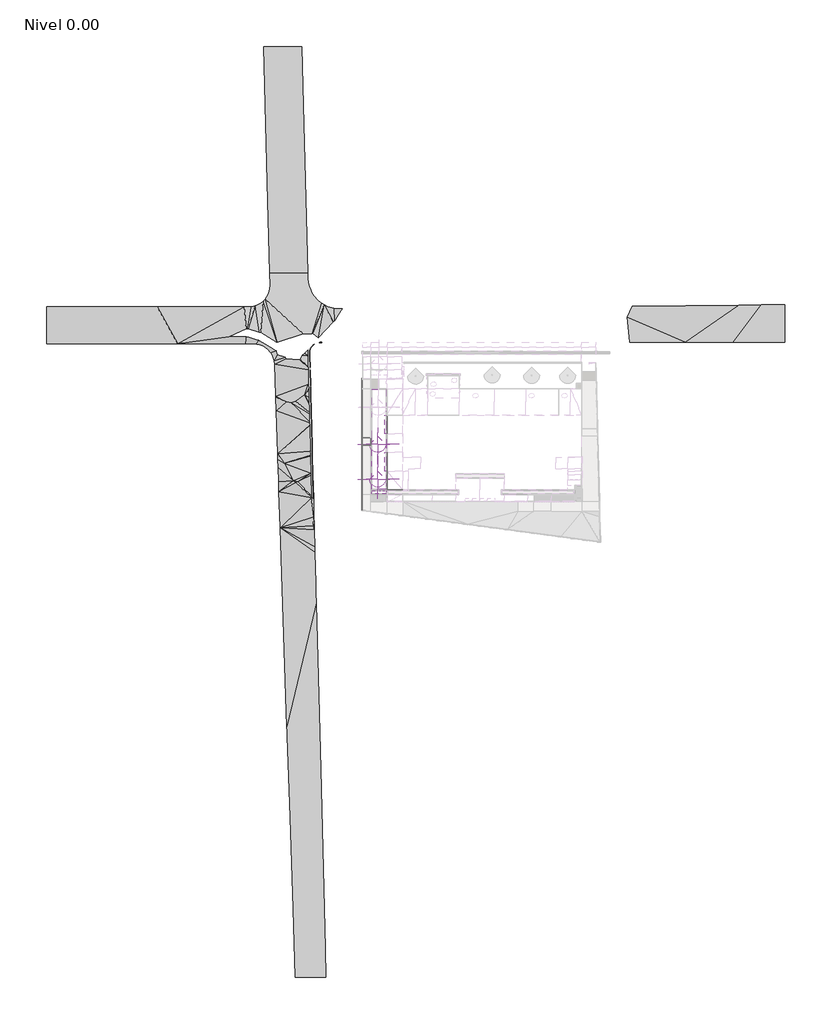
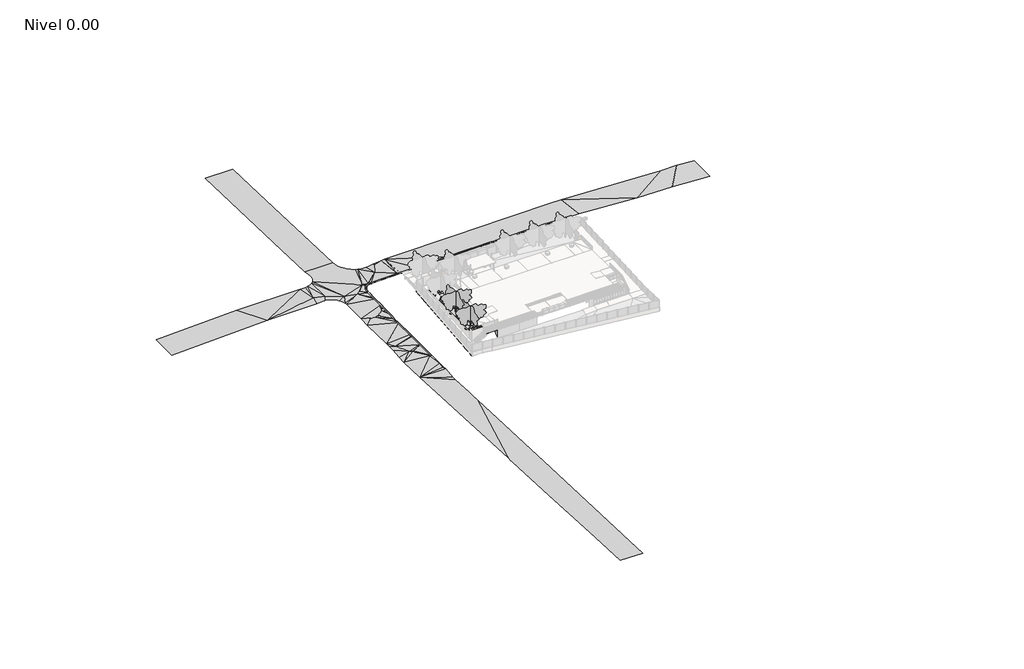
# One storey, part 7 of 10: 11 proxies, 2 geographic elements.
"""IFC4 building model written with IfcOpenShell, lengths in millimetres."""

from ifc_helpers import new_model, si_unit, origin, place, context, project, spatial, triangles, transform, mapped, element, save
from components import generic_models_e7e53a55, m_rpc_tree_deciduous_31fc5fb8

model = new_model("IFC4")

# Units and contexts
model_context = context("Model", 3, world=origin())
ifc_project = project(units=[si_unit("LENGTHUNIT", "METRE", prefix="MILLI")], contexts=[model_context])

# Site, building, storey
site = spatial("IfcSite", under=ifc_project)
building = spatial("IfcBuilding", under=site)
storey = spatial("IfcBuildingStorey", under=building, Name="Nivel 0.00", Elevation=0.0)

# Proxies
placement = place(None, origin())
element("IfcBuildingElementProxy", 1, Name="Building Element Proxy", at=placement, inside=storey, context=model_context, shape_type="Tessellation", body=[
    triangles([(-23758.2800537, -5008.2594177, 119.8403686), (-23758.2800537, -5008.2594177, 119.2509151), (-23537.3563293, -5008.2594177, 119.8403686), (-23537.3563293, -5008.2594177, 119.2509151), (-22610.1733887, -5008.2594177, 119.8403686), (-22610.1733887, -5008.2594177, 119.2509151), (-22137.5720032, -5008.2594177, 119.8403686), (-22137.5720032, -5008.2594177, 119.2509151)], [[1, 4, 2], [1, 3, 4], [3, 6, 4], [3, 5, 6], [5, 8, 6], [5, 7, 8]], closed=False),
    triangles([(-22137.5720032, -3508.259697, 119.8403686), (-22137.5720032, -3508.259697, 119.2509151), (-23197.2305786, -3508.259697, 119.8403686), (-23197.2305786, -3508.259697, 119.2509151), (-23756.2685486, -3508.259697, 119.8403686), (-23756.2685486, -3508.259697, 119.2509151), (-23758.2800537, -3508.259697, 119.8403686), (-23758.2800537, -3508.259697, 119.2509151)], [[1, 4, 2], [1, 3, 4], [3, 6, 4], [3, 5, 6], [5, 8, 6], [5, 7, 8]], closed=False),
    triangles([(-22137.5720032, -3508.259697, 119.8403686), (-22137.5720032, -3508.259697, -86.1539891), (-22137.5720032, -3798.7550468, 119.8403686), (-22137.5720032, -3798.7550468, -104.293089), (-22137.5720032, -4328.0146019, 119.8403686), (-22137.5720032, -4328.0146019, -143.5348616), (-22137.5720032, -4674.7271599, 119.8403686), (-22137.5720032, -4674.7271599, -166.0200989), (-22137.5720032, -5008.2594177, 119.8403686), (-22137.5720032, -5008.2594177, -190.9416518)], [[1, 4, 2], [1, 3, 4], [3, 6, 4], [3, 5, 6], [5, 8, 6], [5, 7, 8], [7, 10, 8], [7, 9, 10]], closed=False),
    triangles([(-22137.5720032, -5008.2594177, 119.8403686), (-22137.5720032, -5008.2594177, -190.9416518), (-22137.5720032, -4674.7271599, 119.8403686), (-22137.5720032, -4674.7271599, -166.0200989), (-22137.5720032, -4328.0146019, 119.8403686), (-22137.5720032, -4328.0146019, -143.5348616), (-22137.5720032, -3798.7550468, 119.8403686), (-22137.5720032, -3798.7550468, -104.293089), (-22137.5720032, -3508.259697, 119.8403686), (-22137.5720032, -3508.259697, -86.1539891)], [[1, 4, 2], [1, 3, 4], [3, 6, 4], [3, 5, 6], [5, 8, 6], [5, 7, 8], [7, 10, 8], [7, 9, 10]], closed=False),
    triangles([(-23758.2800537, -5008.2594177, 119.8403686), (-23758.2800537, -5008.2594177, 119.2509151), (-22137.5720032, -5008.2594177, 119.8403686), (-22137.5720032, -5008.2594177, 119.2509151)], [[1, 4, 2], [1, 3, 4]], closed=False),
    triangles([(-22137.5720032, -3508.259697, 119.8403686), (-22137.5720032, -3508.259697, 119.2509151), (-23758.2800537, -3508.259697, 119.8403686), (-23758.2800537, -3508.259697, 119.2509151)], [[1, 4, 2], [1, 3, 4]], closed=False),
    triangles([(-22137.5720032, -3508.259697, 119.8403686), (-23758.2800537, -3508.259697, 119.8403686), (-23758.2800537, -5008.2594177, 119.8403686), (-22137.5720032, -5008.2594177, 119.8403686)], [[2, 3, 4], [4, 1, 2]], closed=False),
])
element("IfcBuildingElementProxy", 2, Name="Building Element Proxy", at=placement, inside=storey, context=model_context, shape_type="Tessellation", body=[
    triangles([(-19057.5693054, -15653.0759491, 1369.9820755), (-19057.5693054, -15653.0759491, 1349.840427), (-18594.4057159, -15449.3453613, 1366.8441856), (-18594.4057159, -15449.3453613, 1349.840427), (-17423.1132568, -14934.1314606, 1358.9086235), (-17423.1132568, -14934.1314606, 1349.840427), (-17375.9789246, -14913.3978424, 1358.5891663), (-17375.9789246, -14913.3978424, 1349.840427), (-17191.5157654, -14832.258609, 1357.3395332), (-17191.5157654, -14832.258609, 1349.840427), (-16969.6293091, -14734.6587524, 1355.8361366), (-16969.6293091, -14734.6587524, 1349.840427), (-16819.6745087, -14668.6976624, 1354.8202103), (-16819.6745087, -14668.6976624, 1349.840427), (-16564.7668121, -14556.5719482, 1353.0931355), (-16564.7668121, -14556.5719482, 1349.840427), (-16455.9583374, -14508.7109161, 1352.3559711), (-16455.9583374, -14508.7109161, 1349.840427), (-16105.5692596, -14354.5866028, 1349.9821335), (-16105.5692596, -14354.5866028, 1349.840427)], [[1, 4, 2], [1, 3, 4], [3, 6, 4], [3, 5, 6], [5, 8, 6], [5, 7, 8], [7, 10, 8], [7, 9, 10], [9, 12, 10], [9, 11, 12], [11, 14, 12], [11, 13, 14], [13, 16, 14], [13, 15, 16], [15, 18, 16], [15, 17, 18], [17, 20, 18], [17, 19, 20]], closed=False),
    triangles([(-16105.5692596, -15653.0759491, 1369.9820755), (-16105.5692596, -15653.0759491, -850.0000065), (-16105.5692596, -14732.9309509, 1355.8095394), (-16105.5692596, -14732.9309509, -166.0200989), (-16105.5692596, -14715.7831604, 1355.5454567), (-16105.5692596, -14715.7831604, -166.0200989), (-16105.5692596, -14702.0816711, 1355.3344231), (-16105.5692596, -14702.0816711, -166.0200989), (-16105.5692596, -14354.5866028, 1349.9821335), (-16105.5692596, -14354.5866028, -149.0335085)], [[1, 4, 2], [1, 3, 4], [3, 6, 4], [3, 5, 6], [5, 8, 6], [5, 7, 8], [7, 10, 8], [7, 9, 10]], closed=False),
    triangles([(-16105.5692596, -15653.0759491, 1369.9820755), (-16105.5692596, -15653.0759491, -850.0000065), (-16105.5692596, -14732.9309509, 1355.8095394), (-16105.5692596, -14732.9309509, -166.0200989), (-16105.5692596, -14715.7831604, 1355.5454567), (-16105.5692596, -14715.7831604, -166.0200989), (-16105.5692596, -14702.0816711, 1355.3344231), (-16105.5692596, -14702.0816711, -166.0200989), (-16105.5692596, -14354.5866028, 1349.9821335), (-16105.5692596, -14354.5866028, -149.0335085)], [[1, 4, 2], [1, 3, 4], [3, 6, 4], [3, 5, 6], [5, 8, 6], [5, 7, 8], [7, 10, 8], [7, 9, 10]], closed=False),
    triangles([(-19057.5693054, -15653.0759491, 1369.9820755), (-19057.5693054, -15653.0759491, 1349.840427), (-16105.5692596, -14354.5866028, 1349.9821335), (-16105.5692596, -14354.5866028, 1349.840427)], [[1, 4, 2], [1, 3, 4]], closed=False),
    triangles([(-19057.5693054, -15653.0759491, 1369.9820755), (-16105.5692596, -15653.0759491, 1369.9820755), (-16105.5692596, -14354.5866028, 1349.9821335)], [[1, 2, 3]], closed=False),
])
element("IfcBuildingElementProxy", 3, Name="Building Element Proxy", at=placement, inside=storey, context=model_context, shape_type="Tessellation", body=[
    triangles([(-19057.5693054, -2782.1650635, 1319.9921036), (-19057.5693054, -2782.1650635, 88.2344126), (-19057.5693054, -2343.0799461, 1319.9921036), (-19057.5693054, -2343.0799461, 114.9717704), (-19057.5693054, -1042.5896318, 1319.9921036), (-19057.5693054, -1042.5896318, 199.3120893), (-19057.5693054, 773.6954344, 1319.9921036), (-19057.5693054, 773.6954344, 333.9799049), (-19057.5693054, 775.3350145, 1319.9921036), (-19057.5693054, 775.3350145, 334.0525749), (-17783.0831451, 775.3350145, 1332.943784), (-17783.0831451, 775.3350145, 358.605473), (-17484.8478607, 775.3350145, 1335.9745583), (-17484.8478607, 775.3350145, 364.9090127), (-16116.0372253, 775.3350145, 1349.8847557), (-16116.0372253, 775.3350145, 407.3532606), (-16105.4704285, 775.3350145, 1349.9921619), (-16105.4704285, 775.3350145, 407.8702349)], [[1, 4, 2], [1, 3, 4], [3, 6, 4], [3, 5, 6], [5, 8, 6], [5, 7, 8], [7, 10, 8], [7, 9, 10], [9, 12, 10], [9, 11, 12], [11, 14, 12], [11, 13, 14], [13, 16, 14], [13, 15, 16], [15, 18, 16], [15, 17, 18]], closed=False),
    triangles([(-16105.4704285, 775.3350145, 1349.9921619), (-16105.4704285, 775.3350145, 407.8702349), (-16116.0372253, 775.3350145, 1349.8847557), (-16116.0372253, 775.3350145, 407.3532606), (-17484.8478607, 775.3350145, 1335.9745583), (-17484.8478607, 775.3350145, 364.9090127), (-17783.0831451, 775.3350145, 1332.943784), (-17783.0831451, 775.3350145, 358.605473), (-19057.5693054, 775.3350145, 1319.9921036), (-19057.5693054, 775.3350145, 334.0525749)], [[1, 4, 2], [1, 3, 4], [3, 6, 4], [3, 5, 6], [5, 8, 6], [5, 7, 8], [7, 10, 8], [7, 9, 10]], closed=False),
    triangles([(-19057.5693054, 775.3350145, 1319.9921036), (-19057.5693054, 775.3350145, 334.0525749), (-19057.5693054, 773.6954344, 1319.9921036), (-19057.5693054, 773.6954344, 333.9799049), (-19057.5693054, -1042.5896318, 1319.9921036), (-19057.5693054, -1042.5896318, 199.3120893), (-19057.5693054, -2343.0799461, 1319.9921036), (-19057.5693054, -2343.0799461, 114.9717704), (-19057.5693054, -2782.1650635, 1319.9921036), (-19057.5693054, -2782.1650635, 88.2344126)], [[1, 4, 2], [1, 3, 4], [3, 6, 4], [3, 5, 6], [5, 8, 6], [5, 7, 8], [7, 10, 8], [7, 9, 10]], closed=False),
    triangles([(-19057.5693054, 775.3350145, 1319.9921036), (-19057.5693054, -2782.1650635, 1319.9921036), (-16105.4704285, -2782.1650635, 1349.9921619), (-16105.4704285, 775.3350145, 1349.9921619)], [[1, 2, 3], [3, 4, 1]], closed=False),
])
element("IfcBuildingElementProxy", 4, Name="Building Element Proxy", at=placement, inside=storey, context=model_context, shape_type="Tessellation", body=[
    triangles([(-19057.5704681, -9897.184259, 1319.9921036), (-19057.5704681, -9897.184259, -78.4079866), (-19057.5704681, -9898.1876862, 1319.9921036), (-19057.5704681, -9898.1876862, -78.4096398), (-19057.4727997, -9898.1876862, 1319.993121), (-19057.4727997, -9898.1876862, -78.4019641)], [[1, 4, 2], [1, 3, 4], [3, 6, 4], [3, 5, 6]], closed=False),
    triangles([(-19057.5704681, -6339.6647781, 1319.9921036), (-19057.5704681, -6339.6647781, -72.5351165), (-19057.5704681, -9897.1644928, 1319.9921036), (-19057.5704681, -9897.1644928, -78.4079503)], [[1, 4, 2], [1, 3, 4]], closed=False),
    triangles([(-19057.5704681, -9897.184259, 1319.9921036), (-19057.5704681, -9897.184259, -78.4079866), (-19057.5704681, -9898.1876862, 1319.9921036), (-19057.5704681, -9898.1876862, -78.4096398), (-19057.4727997, -9898.1876862, 1319.993121), (-19057.4727997, -9898.1876862, -78.4019641)], [[1, 4, 2], [1, 3, 4], [3, 6, 4], [3, 5, 6]], closed=False),
    triangles([(-19057.5704681, -6339.6647781, 1319.9921036), (-19057.5704681, -6339.6647781, -72.5351165), (-19057.5704681, -9897.1644928, 1319.9921036), (-19057.5704681, -9897.1644928, -78.4079503)], [[1, 4, 2], [1, 3, 4]], closed=False),
    triangles([(-19057.5704681, -6339.6647781, 1319.9921036), (-19057.5704681, -9898.1876862, 1319.9921036), (-16105.4704285, -9898.1876862, 1349.9921619), (-16105.4704285, -6339.6647781, 1349.9921619)], [[1, 2, 4], [3, 4, 2]], closed=False),
])
element("IfcBuildingElementProxy", 5, Name="Building Element Proxy", at=placement, inside=storey, context=model_context, shape_type="Tessellation", body=[
    triangles([(-16105.5692596, -13454.6647888, 1349.9946327), (-16105.5692596, -13454.6647888, -105.0427616), (-18365.8917572, -13454.6647888, 1349.9946327), (-18365.8917572, -13454.6647888, -166.0200989), (-18804.2661621, -13454.6647888, 1349.9946327), (-18804.2661621, -13454.6647888, -166.0200989), (-19057.4727997, -13454.6647888, 1349.9946327), (-19057.4727997, -13454.6647888, -299.8319893), (-19057.4727997, -13159.1793365, 1347.5026337), (-19057.4727997, -13159.1793365, -166.0200989), (-19057.4727997, -13072.9985504, 1346.7759338), (-19057.4727997, -13072.9985504, -166.0200989), (-19057.4727997, -12803.674292, 1344.5045609), (-19057.4727997, -12803.674292, -152.8547869), (-19057.4727997, -10149.1642273, 1322.1185726), (-19057.4727997, -10149.1642273, -78.8162829), (-19057.4727997, -9898.1876862, 1320.0019867), (-19057.4727997, -9898.1876862, -78.4019641)], [[1, 4, 2], [1, 3, 4], [3, 6, 4], [3, 5, 6], [5, 8, 6], [5, 7, 8], [7, 10, 8], [7, 9, 10], [9, 12, 10], [9, 11, 12], [11, 14, 12], [11, 13, 14], [13, 16, 14], [13, 15, 16], [15, 18, 16], [15, 17, 18]], closed=False),
    triangles([(-16105.5692596, -13454.6647888, 1349.9946327), (-19057.4727997, -9897.3028564, 1319.9945744), (-19057.4727997, -13454.6647888, 1349.9946327)], [[2, 3, 1]], closed=False),
])
element("IfcBuildingElementProxy", 6, Name="Building Element Proxy", at=placement, inside=storey, context=model_context, shape_type="Tessellation", body=[
    triangles([(-34113.8014526, 26834.7364563, -51.7933366), (-34138.1232239, 27778.530011, -166.0200989), (-34960.6637146, 59699.4769409, -166.0200989), (-35248.2298828, 70859.3399414, -166.0200989), (-42459.64552, 70875.7668457, -166.0200989), (-41701.0499634, 41436.4335571, -166.0200989), (-41349.1319092, 27779.1834595, -166.0200989), (-41289.7355347, 25474.247406, 112.9454769), (-41316.8827148, 24894.7920776, 183.0771246), (-41427.5550293, 24325.3570679, 251.996973), (-41619.4270386, 23777.9183899, 318.255574), (-41888.4664307, 23263.9892944, 380.4593717), (-42229.0084351, 22794.3760986, 437.3001609), (-42633.8953491, 22378.9595947, 487.5824841), (-43094.6114136, 22026.4741333, 530.2487752), (-43601.4641968, 21744.3332153, 564.4017414), (-44143.7985352, 21538.4713623, 589.3231127), (-44710.2058228, 21413.2185425, 604.4887204), (-44919.6953613, 21398.007843, 606.3320672), (-45288.7751587, 21371.2094788, 625.2355282), (-46216.8161865, 21371.2931946, 663.8019241), (-62776.4565674, 21372.7954285, 663.8019241), (-83805.3125244, 21374.7022888, -165.4420637), (-83821.3394531, 14338.2213226, -165.4420637), (-58867.4812134, 14335.95867, 818.5791773), (-45968.4546021, 14334.788974, 818.5791773), (-44429.0834473, 14334.6494476, 948.0802843), (-43936.3739868, 14296.6703705, 979.3245255), (-43816.7859375, 14287.4511658, 993.6592609), (-43218.9247559, 14147.0818268, 1043.3623318), (-42649.6013672, 13916.8493683, 1068.2034027), (-42122.2289062, 13602.1802032, 1067.596899), (-41649.2438232, 13210.4913208, 1041.5572821), (-41241.7849731, 12751.0158783, 990.6981771), (-41163.5385864, 12629.4139984, 973.1607302), (-40909.4657227, 12234.58461, 1008.8164753), (-40660.1181519, 11673.368866, 1036.4303421), (-40499.6163208, 11080.5980713, 1044.3700464), (-40431.7460449, 10470.2446289, 1032.4484631), (-40222.8797241, 4312.3838699, 813.9701563), (-40213.2849609, 4029.4456169, 815.0398584), (-40131.7643555, 1625.9915943, 596.7662267), (-39852.1302612, -6618.2064972, 332.6720996), (-39815.2069336, -7706.9028351, 255.8071511), (-39761.6195068, -9286.7389618, 179.3756427), (-39671.3785034, -11947.2335449, -166.0200989), (-39607.6568115, -13825.9246857, -390.7022421), (-39376.8615967, -20630.3779541, -591.5472138), (-38090.6703369, -58550.5563721, -391.2592212), (-38064.0463806, -59335.4852051, -387.157146), (-38030.3577393, -60328.7501587, -378.8451897), (-37507.1175842, -75755.1713379, -253.4267913), (-36917.9233154, -93126.1575439, -166.0200989), (-36474.929425, -106186.737085, -166.0200989), (-30677.9018738, -106199.9362793, -166.0200989), (-30822.3349182, -100627.6996582, -166.0200989), (-31705.5972839, -66551.3610352, -339.2454629), (-32524.1147644, -34972.8187866, -596.4363776), (-32577.9649658, -32895.2107178, -613.8365873), (-32620.6228271, -31249.4902405, -622.6196995), (-32774.9831726, -25294.2049072, -654.7236265), (-32801.3955139, -24275.2624512, -624.5535931), (-32884.5625305, -21066.6303955, -236.7763541), (-32902.8125793, -20362.5175598, -227.7039609), (-32906.9472107, -20202.9970642, -327.8844558), (-32908.393634, -20147.2190735, -260.5568975), (-32910.4911804, -20066.2658752, -332.0544774), (-32912.637561, -19983.4941833, -248.0289921), (-32949.7097168, -18553.2559021, -166.0200989), (-33039.171698, -15101.8177368, -117.5831662), (-33040.8157837, -15038.3634705, -111.3249636), (-33160.1526855, -10434.3270538, 150.0000011), (-33251.5192017, -6909.3898865, 305.0721491), (-33256.4119263, -6720.6182693, 312.9953937), (-33257.595575, -6675.0047745, 320.8626097), (-33272.9644043, -6082.0438751, 333.9799049), (-33409.8141907, -802.3112749, 420.0000177), (-33450.9349365, 784.1031567, 444.1728155), (-33456.7229553, 1007.4016634, 468.5094841), (-33488.825647, 2245.9674145, 570.8578517), (-33534.3670532, 4002.9658379, 662.2861736), (-33574.7366821, 5560.4140869, 793.4454643), (-33580.2619263, 5773.5952606, 806.7066462), (-33595.9377136, 6378.3490448, 833.9799088), (-33672.0539978, 9314.9052658, 936.2610203), (-33682.8626404, 9731.8943481, 969.4055815), (-33741.1707092, 11981.4907562, 1069.4269472), (-33755.1489258, 12520.7090057, 1117.1464182), (-33725.7786255, 12917.878949, 1148.6912224), (-33618.296814, 13301.3543793, 1171.9597876), (-33436.9636963, 13655.9315735, 1186.0295683), (-33189.9648193, 13966.3033264, 1190.3252363), (-33188.9718567, 13967.549762, 1190.3775587), (-33015.8266113, 14113.1373871, 1192.5949379), (-32884.1532532, 14223.8538849, 1201.3154085), (-32534.5931946, 14414.6806091, 1212.1899628), (-32380.1096008, 14462.5079224, 1212.6490191), (-32154.1559509, 14532.4629547, 1207.4611816), (-31757.9219971, 14572.5302765, 1191.1905905), (-24010.4576843, 14580.6728027, 1400.0000107), (-20882.1881653, 14583.9598114, 1400.0000107), (-19692.3863708, 14585.2097351, 1400.0000107), (-11233.575943, 14594.0987274, 1500.0000114), (-7242.28759, 14598.2938202, 1500.0000114), (-3288.6245567, 14602.4482178, 1500.0000114), (-1763.599474, 14604.0504456, 1500.0000114), (-24.0384378, 14605.878241, 1500.0000114), (1248.6714569, 14607.2165314, 1500.0000114), (2331.7166862, 14608.354834, 1500.0000114), (6014.5671799, 14612.2243652, 1500.0000114), (7826.1054428, 14614.1277374, 1500.0000114), (12243.3840729, 14618.7704773, 1500.0000114), (14647.2768768, 14621.2959045, 1500.0000114), (16979.5705627, 14623.7469177, 1500.0000114), (17920.5794037, 14624.7363922, 1500.0000114), (20502.4880859, 14627.4490173, 1500.0000114), (17919.7329437, 14627.4490173, 1500.0000114), (16982.0936646, 14627.4490173, 1500.0000114), (16974.3208832, 14627.4490173, 1500.0000114), (14649.4999969, 14627.4490173, 1500.0000114), (14633.2614532, 14627.4490173, 1500.0000114), (12243.6526611, 14627.4490173, 1500.0000114), (7882.6444336, 14627.4490173, 1500.0000114), (7818.4221909, 14627.4490173, 1500.0000114), (6019.4447891, 14627.4490173, 1500.0000114), (2372.5625942, 14627.4490173, 1500.0000114), (2328.956971, 14627.4490173, 1500.0000114), (1252.3308266, 14627.4490173, 1500.0000114), (-11.8954914, 14627.4490173, 1500.0000114), (-24.6127782, 14627.4490173, 1500.0000114), (-1755.2626282, 14627.4490173, 1500.0000114), (-3271.3302635, 14627.4490173, 1500.0000114), (-3284.2480797, 14627.4490173, 1500.0000114), (-3290.7816925, 14627.4490173, 1500.0000114), (-7227.3617569, 14627.4490173, 1500.0000114), (-11196.388678, 14627.4490173, 1500.0000114), (-11302.939151, 14627.4490173, 1500.0000114), (-19724.5983582, 14627.4490173, 1400.656366), (-20907.3075623, 14627.4490173, 1400.6756962), (-24014.7388184, 14627.4490173, 1400.7262745), (-24020.1547668, 14627.4490173, 1399.5199528), (-24037.6281189, 14627.4490173, 1399.466613), (-24080.7510681, 14627.4490173, 1399.0544289), (-31710.2946716, 14627.4490173, 1193.5856478), (-31761.6054932, 14627.4490173, 1196.1431225), (-31899.0482666, 14611.7999725, 1201.6350111), (-32206.2876526, 14576.8195496, 1213.9113693), (-32240.29953, 14564.8795807, 1214.5699774), (-32443.1150574, 14493.6862518, 1218.4968452), (-32583.7646118, 14444.3148468, 1217.3850672), (-32628.580481, 14428.5832489, 1217.030801), (-32909.4703125, 14251.7696228, 1205.4974934), (-33007.3434082, 14190.1629181, 1201.478916), (-33043.4063232, 14154.054657, 1198.4017782), (-33201.3501709, 13995.9119843, 1193.9444195), (-33202.3919678, 13994.8678619, 1193.9149881), (-33323.6124756, 13873.4950378, 1194.4727303), (-33441.9633911, 13684.9530579, 1188.9836758), (-33561.5560913, 13494.4321289, 1183.436994), (-33619.3548889, 13329.1073364, 1174.4466997), (-33629.742627, 13299.397522, 1172.8311007), (-33709.2587036, 13071.9521027, 1160.4628149), (-33726.6041565, 12917.887088, 1148.7670172), (-33759.3300659, 12627.2071564, 1126.7002682), (-33756.5767456, 12521.0078247, 1117.3018593), (-33742.5938782, 11981.6605133, 1069.5579712), (-33684.2974365, 9733.1640381, 969.5842043), (-33673.4911194, 9316.3766876, 936.4554852), (-33673.4585632, 9315.1453674, 936.2810045), (-33597.3399536, 6379.1879471, 834.0206039), (-33597.2632141, 6376.249173, 833.9799088), (-33597.2120544, 6374.2952225, 833.9799088), (-33581.6432373, 5773.7632736, 806.8965328), (-33576.1528748, 5562.0639862, 793.7273512), (-33576.0807861, 5559.2815979, 793.4929905), (-33535.7483643, 4003.6553307, 662.4860161), (-33490.2488159, 2248.6785862, 571.1615396), (-33490.1930054, 2246.5063351, 570.9820084), (-33458.0856628, 1008.1532164, 468.6411258), (-33452.297644, 784.9342106, 444.3130322), (-33411.1815491, -800.9206621, 420.1477558), (-33411.1582947, -801.8259848, 420.0353354), (-33411.1164368, -803.489764, 419.9825769), (-33274.2457214, -6082.6048874, 333.9799049), (-33274.0620117, -6089.6788742, 333.9799049), (-33258.8629395, -6675.8785583, 321.0116921), (-33257.6932434, -6720.9734802, 313.2337875), (-33252.8563293, -6907.6022049, 305.4002541), (-33252.8005188, -6909.7520737, 305.0790164), (-33161.4316772, -10433.8608032, 150.0429037), (-33161.4014465, -10434.9828278, 150.080247), (-33042.1598877, -15034.175354, -110.9726686), (-33045.7410645, -15033.2416901, -110.5897069), (-33047.3037598, -15032.8347382, -110.4751245), (-33148.804541, -15006.3665863, -103.0254157), (-33445.0166931, -14929.1259521, -110.2628827), (-33449.8094238, -14744.2988617, -63.055944), (-33451.2558472, -14688.5069183, -57.5533774), (-33453.3068848, -14609.4117462, -49.7525), (-33556.1703735, -10641.9911224, 175.4406539), (-33565.3884155, -10286.4116638, 163.600897), (-33650.0227844, -7022.0649857, 307.2093006), (-33654.666687, -6842.9131302, 333.9799049), (-33669.8866882, -6255.8867523, 333.9799049), (-33673.5329773, -6115.2232452, 333.9799049), (-33802.0646667, -1157.7830366, 414.7491028), (-33815.0755005, -655.9107634, 430.6571071), (-33822.1564636, -382.8257243, 464.5683729), (-33858.8588745, 1032.8040373, 486.139767), (-33864.026001, 1232.0627323, 507.8564647), (-33866.8537354, 1341.147353, 519.7453102), (-33894.463678, 2406.0795891, 607.7459707), (-33911.1952148, 3051.4463013, 661.0758551), (-33941.1305969, 4206.017688, 721.1567808), (-33967.6638611, 5229.4395218, 807.3441799), (-33975.865686, 5545.7219604, 833.9799088), (-33981.6002197, 5766.9096222, 833.9799088), (-34003.7825867, 6622.4835617, 845.8211191), (-34075.3735657, 9383.8394302, 942.0001322), (-34084.5357971, 9737.1451904, 992.0781075), (-34093.8282532, 10095.6151703, 1020.5712811), (-34143.9670532, 12029.4959656, 1106.5565123), (-34147.7482178, 12175.2707886, 1123.057976), (-34158.8940491, 12605.1782684, 1161.1039095), (-34159.3242554, 12621.7749298, 1162.5727152), (-34130.4399719, 12921.7833618, 1185.7918648), (-34114.2014282, 13090.4428345, 1198.8453558), (-34074.168988, 13223.3975098, 1206.6614485), (-33978.4539001, 13541.2839203, 1225.3491886), (-33757.3115845, 13956.9527344, 1241.0645084), (-33648.406604, 14090.1457672, 1242.6437725), (-33535.5320984, 14228.1931549, 1244.2807365), (-33459.2762878, 14321.4549042, 1245.386483), (-33374.7674927, 14391.0494934, 1243.7035915), (-33374.0559082, 14391.6343414, 1243.7115852), (-33264.3998108, 14481.936969, 1244.9331676), (-33180.7235229, 14550.8455536, 1250.3023167), (-33095.8217285, 14620.7622162, 1255.7498039), (-32979.8125305, 14683.0049286, 1259.2292427), (-32905.8565796, 14722.6827393, 1261.4472759), (-32804.3581238, 14777.1387177, 1261.1170635), (-32698.1064697, 14834.1457031, 1260.7712997), (-32680.9284485, 14843.3614197, 1260.7153439), (-32230.5652405, 14980.684433, 1250.192149), (-31762.0589539, 15027.4490204, 1230.9005939), (-31363.406543, 15027.4490204, 1211.0300772), (-24681.8562378, 15027.4490204, 1390.9687305), (-24269.9767273, 15027.4490204, 1394.9052635), (-24103.0799377, 15027.4490204, 1395.4151161), (-24101.0986633, 15027.4490204, 1395.4152615), (-24100.0359375, 15027.4490204, 1395.3575615), (-24099.1964539, 15027.4490204, 1395.3690434), (-24051.3575134, 15027.4490204, 1406.9373779), (-21138.3422974, 15027.4490204, 1406.8898518), (-20029.6285767, 15027.4490204, 1406.8718296), (-12134.8697662, 15027.4490204, 1500.0000114), (-10750.3670654, 15027.4490204, 1500.0000114), (-7022.5922791, 15027.4490204, 1500.0000114), (-3325.292086, 15027.4490204, 1500.0000114), (-3214.2244469, 15027.4490204, 1500.0000114), (-2994.6358154, 15027.4490204, 1500.0000114), (-1612.7448738, 15027.4490204, 1500.0000114), (-35.2632364, 15027.4490204, 1500.0000114), (213.2808951, 15027.4490204, 1500.0000114), (1324.6737946, 15027.4490204, 1500.0000114), (2271.1456741, 15027.4490204, 1500.0000114), (3228.1980125, 15027.4490204, 1500.0000114), (6147.6020828, 15027.4490204, 1500.0000114), (7587.720575, 15027.4490204, 1500.0000114), (9580.3768524, 15027.4490204, 1500.0000114), (12256.0216736, 15027.4490204, 1500.0000114), (13722.1391602, 15027.4490204, 1500.0000114), (14794.0202454, 15027.4490204, 1500.0000114), (16407.1008545, 15027.4490204, 1500.0000114), (17254.7398132, 15027.4490204, 1500.0000114), (17795.0056732, 15027.4490204, 1500.0000114), (19542.3606445, 15027.4490204, 1500.0000114), (20692.9811096, 15027.4490204, 1500.0000114), (20692.9811096, 14701.0177826, 1500.0000114), (20692.9811096, 14627.6490051, 1500.0000114), (20950.6351501, 14627.9199188, 1500.0000114), (22412.7924133, 14629.4570343, 1500.0000114), (37704.7752869, 14645.5269836, 519.9877009), (46842.4059082, 14655.1287231, 445.0378063), (56629.082959, 14665.4129791, -165.0383092), (56645.2354614, 21754.6442139, -165.0383092), (52134.2782471, 21713.8978638, 116.1576809), (47865.3341675, 21675.3397522, 152.5520983), (21794.8347839, 21439.8611023, 1500.0000114), (19293.9641785, 21417.2717834, 1500.0000114), (-1686.2565205, 21227.7717224, 1500.0000114), (-2453.0386414, 21220.8465637, 1500.0000114), (-3858.5415138, 21208.1496643, 1500.0000114), (-24600.021698, 21020.8052856, 1500.0000114), (-25288.377356, 21014.5870605, 1333.310622), (-25290.853949, 21014.5661316, 1333.2662933), (-25297.3977356, 21014.5056702, 1333.2174591), (-25300.453363, 21014.4777649, 1333.1463879), (-25315.7221985, 21014.340564, 1333.9799126), (-25344.1879028, 21014.0847656, 1333.9799126), (-27572.3588745, 20993.9580872, 1207.6965597), (-28061.6011047, 20989.5397522, 1101.8885559), (-28836.8863403, 21032.7836243, 927.5288498), (-29186.0533997, 21098.2075378, 842.8845978), (-29600.0955688, 21175.7888489, 797.4196404), (-30338.4435242, 21416.1602234, 701.6290483), (-31039.5658447, 21749.8724121, 595.4583123), (-31519.320282, 22059.9186035, 511.0263657), (-31691.7213867, 22171.3350586, 498.5402819), (-32283.9852356, 22673.4881287, 441.6358337), (-32806.4393921, 23247.9274841, 376.012005), (-33250.335553, 23885.0258057, 302.7678929), (-33481.9609497, 24330.9939331, 251.2275978), (-33608.2346375, 24574.1139771, 221.8040122), (-33874.1463135, 25303.6554932, 133.5108096), (-34043.6150391, 26061.4255188, 41.7996924), (-45793.1629761, 16195.7800323, 1333.9799126), (-43203.4466309, 15385.7190125, 1333.9799126), (-40098.7291626, 4180.3337906, 833.9799088), (-39835.624292, -6625.6327881, 333.9799049), (-39535.5821411, 13215.3049805, 1333.9799126), (-38641.792511, -8433.466626, 333.9799049), (-38261.1087708, 3309.1224335, 833.9799088), (-37239.9106384, 3094.1436951, 833.9799088), (-36903.4055969, -11748.817749, 333.9799049), (-36611.1466919, 12323.5338318, 1333.9799126), (-36439.8431946, -12141.0531097, 333.9799049), (-36382.2257813, 3388.0440697, 833.9799088), (-36024.0360168, -11936.0923645, 333.9799049), (-35746.7413147, 12937.3777588, 1333.9799126), (-34720.6737122, 4595.1578888, 833.9799088), (-33687.3135315, 15109.4009949, 1333.9799126), (-33097.2146667, -20232.2952759, -166.0200989), (-28918.5022888, 17846.6827515, 1333.9799126), (-27373.484967, 20370.3008057, 1333.9799126), (-2205.6977795, 20788.5078369, 1500.0000114), (-144.9524804, 19147.0522156, 1500.0000114), (1850.7467709, 17936.2168213, 1500.0000114), (6661.9026672, 16632.6673187, 1500.0000114), (12275.6600098, 15662.4800262, 1500.0000114), (15121.5583923, 15934.0064758, 1500.0000114), (17625.4264893, 15571.2855927, 1500.0000114)], [[325, 45, 46], [47, 196, 327], [196, 47, 48], [325, 46, 47], [43, 320, 206], [320, 43, 44], [44, 45, 322], [325, 322, 45], [44, 322, 320], [320, 322, 205], [48, 69, 196], [327, 199, 329], [50, 51, 57], [51, 52, 57], [50, 57, 49], [327, 325, 47], [207, 42, 206], [329, 325, 327], [205, 322, 204], [325, 201, 322], [206, 42, 43], [206, 320, 205], [201, 325, 329], [56, 52, 53], [58, 48, 49], [42, 207, 208], [41, 42, 323], [323, 324, 328], [324, 323, 42], [210, 328, 324], [41, 323, 319], [42, 208, 324], [331, 323, 328], [319, 323, 40], [319, 40, 41], [40, 218, 39], [218, 331, 217], [40, 323, 218], [331, 218, 323], [219, 39, 218], [328, 213, 331], [212, 213, 328], [210, 211, 328], [209, 210, 324], [212, 328, 211], [216, 217, 331], [215, 216, 331], [167, 168, 86], [86, 168, 85], [215, 331, 214], [213, 214, 331], [208, 209, 324], [73, 189, 190], [200, 329, 199], [327, 198, 199], [327, 197, 198], [201, 329, 200], [76, 183, 184], [322, 203, 204], [203, 322, 202], [202, 322, 201], [196, 197, 327], [187, 74, 186], [74, 187, 188], [188, 189, 73], [188, 73, 74], [77, 183, 76], [76, 184, 185], [185, 75, 76], [75, 186, 74], [185, 186, 75], [183, 77, 182], [173, 83, 172], [83, 173, 174], [174, 175, 82], [82, 175, 81], [174, 82, 83], [170, 85, 169], [85, 170, 84], [169, 85, 168], [171, 172, 84], [84, 172, 83], [171, 84, 170], [79, 180, 78], [180, 79, 179], [181, 182, 77], [181, 77, 78], [78, 180, 181], [177, 81, 176], [81, 177, 80], [176, 81, 175], [179, 80, 178], [80, 179, 79], [178, 80, 177], [53, 54, 56], [28, 29, 318], [31, 32, 318], [30, 31, 318], [29, 30, 318], [22, 24, 25], [317, 26, 27], [318, 27, 28], [25, 26, 317], [27, 318, 317], [32, 321, 318], [321, 36, 37], [38, 39, 326], [222, 330, 326], [37, 38, 321], [326, 321, 38], [34, 35, 321], [33, 34, 321], [36, 321, 35], [326, 330, 321], [332, 13, 321], [318, 321, 14], [330, 224, 225], [33, 321, 32], [39, 219, 326], [330, 332, 321], [23, 24, 22], [21, 317, 20], [21, 22, 25], [20, 317, 19], [317, 21, 25], [18, 19, 317], [17, 18, 317], [17, 318, 16], [16, 318, 15], [317, 318, 17], [14, 15, 318], [14, 321, 13], [314, 10, 11], [315, 9, 10], [11, 12, 312], [3, 5, 6], [2, 6, 7], [3, 4, 5], [316, 8, 9], [1, 7, 8], [3, 6, 2], [13, 332, 12], [225, 226, 330], [222, 223, 330], [220, 221, 326], [222, 326, 221], [227, 330, 226], [229, 330, 228], [228, 330, 227], [165, 88, 164], [223, 224, 330], [88, 166, 87], [166, 88, 165], [167, 87, 166], [89, 163, 164], [162, 90, 161], [162, 163, 89], [160, 90, 159], [90, 160, 161], [162, 89, 90], [90, 91, 159], [167, 86, 87], [89, 164, 88], [230, 332, 330], [332, 231, 232], [231, 332, 230], [11, 312, 313], [312, 12, 311], [7, 1, 2], [8, 316, 1], [315, 10, 314], [314, 11, 313], [315, 316, 9], [332, 232, 233], [330, 229, 230], [158, 91, 157], [157, 92, 156], [92, 157, 91], [155, 156, 93], [234, 235, 332], [235, 236, 332], [237, 332, 236], [332, 311, 12], [234, 332, 233], [92, 93, 156], [159, 91, 158], [220, 326, 219], [192, 193, 71], [70, 195, 196], [71, 194, 70], [196, 69, 70], [333, 68, 69], [192, 71, 72], [191, 72, 190], [72, 191, 192], [194, 195, 70], [193, 194, 71], [143, 99, 100], [69, 48, 333], [48, 62, 63], [62, 48, 61], [61, 48, 60], [48, 63, 333], [333, 66, 67], [67, 68, 333], [66, 333, 65], [333, 64, 65], [63, 64, 333], [48, 59, 60], [58, 59, 48], [72, 73, 190], [154, 94, 153], [154, 155, 94], [95, 153, 94], [239, 332, 238], [152, 95, 151], [96, 151, 95], [153, 95, 152], [155, 93, 94], [150, 96, 149], [96, 150, 151], [148, 149, 97], [97, 149, 96], [148, 97, 98], [98, 146, 147], [147, 148, 98], [145, 99, 144], [99, 145, 146], [99, 146, 98], [99, 143, 144], [58, 49, 57], [139, 100, 101], [52, 56, 57], [101, 102, 138], [137, 102, 103], [103, 104, 136], [135, 136, 104], [103, 136, 137], [137, 138, 102], [132, 105, 106], [107, 108, 129], [107, 131, 106], [128, 108, 109], [110, 111, 124], [110, 126, 109], [120, 113, 119], [112, 113, 121], [111, 112, 123], [105, 135, 104], [114, 119, 113], [138, 139, 101], [134, 135, 105], [133, 134, 105], [100, 142, 143], [142, 100, 141], [131, 132, 106], [141, 100, 140], [133, 105, 132], [139, 140, 100], [129, 130, 107], [127, 128, 109], [126, 127, 109], [129, 108, 128], [125, 110, 124], [124, 111, 123], [112, 121, 122], [122, 123, 112], [113, 120, 121], [126, 110, 125], [131, 107, 130], [114, 115, 118], [54, 55, 56], [240, 241, 332], [242, 243, 332], [332, 241, 242], [332, 243, 244], [248, 294, 247], [334, 246, 247], [248, 249, 294], [307, 332, 244], [294, 254, 255], [293, 256, 257], [256, 294, 255], [257, 258, 293], [294, 251, 252], [249, 250, 294], [259, 293, 258], [254, 294, 253], [253, 294, 252], [250, 251, 294], [293, 259, 336], [306, 334, 305], [307, 244, 334], [304, 334, 303], [334, 304, 305], [303, 334, 335], [246, 334, 245], [310, 311, 332], [332, 309, 310], [332, 308, 309], [306, 307, 334], [308, 332, 307], [244, 245, 334], [301, 302, 335], [247, 335, 334], [300, 335, 247], [335, 300, 301], [302, 303, 335], [247, 299, 300], [247, 298, 299], [247, 296, 297], [247, 295, 296], [297, 298, 247], [294, 295, 247], [293, 294, 256], [259, 260, 336], [239, 240, 332], [337, 261, 262], [338, 263, 264], [262, 263, 337], [265, 338, 264], [338, 266, 267], [268, 269, 339], [268, 339, 267], [338, 265, 266], [339, 269, 270], [119, 114, 118], [117, 115, 116], [117, 118, 115], [278, 279, 281], [281, 279, 280], [282, 278, 281], [283, 284, 288], [289, 282, 283], [287, 284, 285], [340, 339, 270], [340, 271, 272], [272, 273, 341], [341, 273, 274], [272, 341, 340], [339, 340, 290], [292, 336, 291], [292, 293, 336], [291, 336, 337], [338, 339, 291], [338, 337, 263], [338, 267, 339], [338, 291, 337], [336, 261, 337], [290, 291, 339], [290, 340, 341], [270, 271, 340], [274, 275, 342], [277, 278, 290], [276, 277, 342], [275, 276, 342], [277, 290, 342], [278, 289, 290], [290, 341, 342], [289, 278, 282], [288, 289, 283], [287, 288, 284], [285, 286, 287], [342, 341, 274], [336, 260, 261], [332, 237, 238]], closed=False),
])
element("IfcBuildingElementProxy", 7, Name="Building Element Proxy", at=placement, inside=storey, context=model_context, shape_type="Tessellation", body=[
    triangles([(-19207.5706146, -13600.5489075, 2400.0000183), (-19864.196814, -13600.5489075, 2400.0000183), (-20580.2042725, -13600.5489075, 2419.9999603), (-21987.5718567, -13600.5489075, 2419.9999603), (-21987.5718567, -14200.459964, 2400.0000183), (-20663.5177917, -14200.459964, 2429.9999313), (-19207.5706146, -14200.459964, 2350.0000179), (-19207.5706146, -14084.7333069, 2350.0000179)], [[5, 6, 4], [3, 4, 6], [6, 2, 3], [7, 8, 2], [1, 2, 8], [7, 2, 6]], closed=False),
])
element("IfcBuildingElementProxy", 8, Name="Building Element Proxy", at=placement, inside=storey, context=model_context, shape_type="Tessellation", body=[
    triangles([(-19207.5706146, 5640.596402, 1400.0000107), (-21987.5811584, 5640.596402, 1400.0000107), (-21987.5811584, -13300.604425, 1400.0000107), (-19207.5706146, -13300.604425, 1400.0000107), (-19207.5706146, 3155.3268791, 1350.0000103), (-19207.5706146, -3830.0043022, 1350.0000103), (-19207.5706146, -432.2425844, 1350.0000103), (-19207.5706146, -10540.9647308, 1350.0000103), (-19207.5706146, -12212.2545776, 1350.0000103), (-19572.4983398, -11238.3791382, 1430.000069), (-19308.788855, -10134.0918915, 1430.000069), (-19431.3778839, -5956.7003632, 1430.000069), (-19382.0181061, -3065.0684349, 1430.000069), (-19341.6321991, 1211.5425459, 1430.000069), (-19361.5088928, 4891.7973404, 1430.000069), (-20778.1317261, 2021.7619137, 1430.000069), (-20922.3415283, -3110.0232491, 1430.000069), (-20700.2015991, -8984.1777786, 1430.000069), (-21987.5811584, -11564.2441315, 1350.0000103), (-21987.5811584, -4706.7388687, 1350.0000103), (-21987.5811584, 2501.7600861, 1350.0000103), (-21987.5811584, 315.8854425, 1450.0000111), (-21987.5811584, -6978.2031281, 1450.0000111), (-21987.5811584, -8969.5676239, 1450.0000111), (-20766.6440552, -5965.6841171, 1450.0000111), (-21356.3452698, 216.9832672, 1450.0000111), (-20271.2928955, 3726.3963821, 1450.0000111), (-20890.3179016, -12184.5365021, 1450.0000111)], [[19, 18, 24], [28, 19, 3], [26, 7, 14], [15, 1, 2], [18, 23, 24], [10, 19, 28], [23, 25, 20], [25, 23, 18], [17, 25, 6], [10, 18, 19], [3, 4, 28], [14, 7, 5], [21, 27, 2], [5, 16, 14], [1, 15, 5], [16, 21, 22], [17, 26, 22], [17, 20, 25], [26, 16, 22], [14, 16, 26], [7, 26, 17], [17, 22, 20], [15, 2, 27], [27, 21, 16], [25, 18, 12], [11, 12, 18], [11, 10, 8], [12, 11, 8], [25, 12, 6], [18, 10, 11], [8, 10, 9], [27, 16, 5], [6, 12, 8], [13, 6, 7], [10, 28, 9], [28, 4, 9], [6, 13, 17], [15, 27, 5], [17, 13, 7]], closed=False),
])
element("IfcBuildingElementProxy", 9, Name="Building Element Proxy", at=placement, inside=storey, context=model_context, shape_type="Tessellation", body=[
    triangles([(-23758.2800537, -17306.3203857, -2121.2488644), (-23758.2800537, -17306.3203857, -810.1596331), (-23758.2800537, -16988.0398132, -2089.4028431), (-23758.2800537, -16988.0398132, -810.1596331), (-23758.2800537, -16048.4785583, -1995.393465), (-23758.2800537, -16048.4785583, -810.1596331), (-23758.2800537, -14405.620697, -1831.0146904), (-23758.2800537, -14405.620697, -810.1596331), (-23758.2800537, -14303.0118439, -1820.7480206), (-23758.2800537, -14303.0118439, -810.1596331)], [[1, 4, 2], [1, 3, 4], [3, 6, 4], [3, 5, 6], [5, 8, 6], [5, 7, 8], [7, 10, 8], [7, 9, 10]], closed=False),
    triangles([(-23758.2800537, -14303.0118439, -1820.7480206), (-23758.2800537, -14303.0118439, -810.7490593), (-23758.2800537, -13045.8874146, -1694.9644192), (-23758.2800537, -13045.8874146, -684.9656033), (-23758.2800537, -12058.2697906, -1596.146759), (-23758.2800537, -12058.2697906, -586.1481248), (-23758.2800537, -11919.0422424, -1582.2160686), (-23758.2800537, -11919.0422424, -572.2175071), (-23758.2800537, -10976.7648743, -1487.9350502), (-23758.2800537, -10976.7648743, -477.9365613), (-23758.2800537, -9873.0287567, -1377.4989132), (-23758.2800537, -9873.0287567, -367.500606), (-23758.2800537, -8449.9208542, -1235.1076046), (-23758.2800537, -8449.9208542, -225.1095335), (-23758.2800537, -8245.5577469, -1214.6597248), (-23758.2800537, -8245.5577469, -204.6616538), (-23758.2800537, -6980.1780075, -1088.0502291), (-23758.2800537, -6980.1780075, -78.0522852), (-23758.2800537, -5093.9844177, -899.3241034), (-23758.2800537, -5093.9844177, 110.6735771), (-23758.2800537, -5008.2594177, -890.7467926), (-23758.2800537, -5008.2594177, 119.2509151)], [[1, 4, 2], [1, 3, 4], [3, 6, 4], [3, 5, 6], [5, 8, 6], [5, 7, 8], [7, 10, 8], [7, 9, 10], [9, 12, 10], [9, 11, 12], [11, 14, 12], [11, 13, 14], [13, 16, 14], [13, 15, 16], [15, 18, 16], [15, 17, 18], [17, 20, 18], [17, 19, 20], [19, 22, 20], [19, 21, 22]], closed=False),
    triangles([(-23758.2800537, -5008.2594177, -890.7467926), (-23758.2800537, -5008.2594177, 119.8403686), (-23758.2800537, -3510.8708748, -740.9231615), (-23758.2800537, -3510.8708748, 119.8403686), (-23758.2800537, -3508.259697, -740.6618402), (-23758.2800537, -3508.259697, 119.8403686)], [[1, 4, 2], [1, 3, 4], [3, 6, 4], [3, 5, 6]], closed=False),
    triangles([(-23758.2800537, -3508.259697, -740.6618402), (-23758.2800537, -3508.259697, 119.2509151), (-23758.2800537, -2598.0303726, -649.5873848), (-23758.2800537, -2598.0303726, 210.3252434), (-23758.2800537, -731.7075176, -462.8495098), (-23758.2800537, -731.7075176, 397.0629004), (-23758.2800537, -199.9680086, -409.6454535), (-23758.2800537, -199.9680086, 450.2668839), (-23758.2800537, 2062.9344006, -183.2271518), (-23758.2800537, 2062.9344006, 676.6848587), (-23758.2800537, 5056.1826553, 116.2670856), (-23758.2800537, 5056.1826553, 976.1787146), (-23758.2800537, 5756.7387314, 186.3623347), (-23758.2800537, 5756.7387314, 1046.2738546), (-23758.2800537, 5786.4921478, 189.3393877), (-23758.2800537, 5786.4921478, 1049.2509258)], [[1, 4, 2], [1, 3, 4], [3, 6, 4], [3, 5, 6], [5, 8, 6], [5, 7, 8], [7, 10, 8], [7, 9, 10], [9, 12, 10], [9, 11, 12], [11, 14, 12], [11, 13, 14], [13, 16, 14], [13, 15, 16]], closed=False),
    triangles([(-23758.2800537, 5786.4921478, 189.3393877), (-23758.2800537, 5786.4921478, 1049.8403521), (-23758.2800537, 7620.6086838, 372.8548213), (-23758.2800537, 7620.6086838, 1049.8403521)], [[1, 4, 2], [1, 3, 4]], closed=False),
    triangles([(-23758.2800537, -17306.763382, -2121.2931931), (-23758.2800537, -17306.763382, -1499.8503113), (-23758.2800537, -17306.3203857, -2121.2488644), (-23758.2800537, -17306.3203857, -1499.7953728)], [[1, 4, 2], [1, 3, 4]], closed=False),
    triangles([(-23858.2809265, -17306.763382, -2121.2931931), (-23858.2809265, -17306.763382, -1517.419297), (-23858.2809265, -17145.4674133, -2105.1544979), (-23858.2809265, -17145.4674133, -1497.3990074), (-23858.2809265, -16152.844281, -2005.8359962), (-23858.2809265, -16152.844281, -1354.6697834), (-23858.2809265, -14417.2071991, -1832.1740673), (-23858.2809265, -14417.2071991, -1196.7746246), (-23858.2809265, -13115.8226807, -1701.9618118), (-23858.2809265, -13115.8226807, -946.3180372), (-23858.2809265, -11999.7163879, -1590.288105), (-23858.2809265, -11999.7163879, -666.0201027), (-23858.2809265, -11942.0792084, -1584.5211605), (-23858.2809265, -11942.0792084, -656.6683479), (-23858.2809265, -10973.6732025, -1487.6256214), (-23858.2809265, -10973.6732025, -573.6377692), (-23858.2809265, -9839.3308136, -1374.1273167), (-23858.2809265, -9839.3308136, -535.5899463), (-23858.2809265, -8517.2929047, -1241.8487629), (-23858.2809265, -8517.2929047, -532.7892088), (-23858.2809265, -8327.4434464, -1222.8529747), (-23858.2809265, -8327.4434464, -522.4856589), (-23858.2809265, -7151.9320587, -1105.235372), (-23858.2809265, -7151.9320587, -434.6514853), (-23858.2809265, -5132.7872818, -903.2065699), (-23858.2809265, -5132.7872818, -406.4711197), (-23858.2809265, -3640.6920204, -753.9125576), (-23858.2809265, -3640.6920204, -258.3658612), (-23858.2809265, -2391.454319, -628.9181522), (-23858.2809265, -2391.454319, -166.0200989), (-23858.2809265, -804.3988655, -470.1227577), (-23858.2809265, -804.3988655, -89.7029549), (-23858.2809265, -352.2263203, -424.8799161), (-23858.2809265, -352.2263203, -51.0693074), (-23858.2809265, 2036.1418499, -185.9079111), (-23858.2809265, 2036.1418499, 37.9060529), (-23858.2809265, 5195.3497421, 130.1916626), (-23858.2809265, 5195.3497421, 333.9799049), (-23858.2809265, 5639.1778839, 174.5996261), (-23858.2809265, 5639.1778839, 372.6235854), (-23858.2809265, 7783.2365479, 389.1267932), (-23858.2809265, 7783.2365479, 530.2483392), (-23758.2800537, 7783.2365479, 389.1267932), (-23758.2800537, 7783.2365479, 543.9586215), (-23758.2800537, 7620.6086838, 372.8548213), (-23758.2800537, 7620.6086838, 532.0027379)], [[1, 4, 2], [1, 3, 4], [3, 6, 4], [3, 5, 6], [5, 8, 6], [5, 7, 8], [7, 10, 8], [7, 9, 10], [9, 12, 10], [9, 11, 12], [11, 14, 12], [11, 13, 14], [13, 16, 14], [13, 15, 16], [15, 18, 16], [15, 17, 18], [17, 20, 18], [17, 19, 20], [19, 22, 20], [19, 21, 22], [21, 24, 22], [21, 23, 24], [23, 26, 24], [23, 25, 26], [25, 28, 26], [25, 27, 28], [27, 30, 28], [27, 29, 30], [29, 32, 30], [29, 31, 32], [31, 34, 32], [31, 33, 34], [33, 36, 34], [33, 35, 36], [35, 38, 36], [35, 37, 38], [37, 40, 38], [37, 39, 40], [39, 42, 40], [39, 41, 42], [41, 44, 42], [41, 43, 44], [43, 46, 44], [43, 45, 46]], closed=False),
    triangles([(-23758.2800537, 7620.6086838, 372.8548213), (-23758.2800537, 7620.6086838, 532.0027379), (-23758.2800537, 7783.2365479, 389.1267932), (-23758.2800537, 7783.2365479, 543.9586215), (-23858.2809265, 7783.2365479, 389.1267932), (-23858.2809265, 7783.2365479, 530.2483392), (-23858.2809265, 5639.1778839, 174.5996261), (-23858.2809265, 5639.1778839, 372.6235854), (-23858.2809265, 5195.3497421, 130.1916626), (-23858.2809265, 5195.3497421, 333.9799049), (-23858.2809265, 2036.1418499, -185.9079111), (-23858.2809265, 2036.1418499, 37.9060529), (-23858.2809265, -352.2263203, -424.8799161), (-23858.2809265, -352.2263203, -51.0693074), (-23858.2809265, -804.3988655, -470.1227577), (-23858.2809265, -804.3988655, -89.7029549), (-23858.2809265, -2391.454319, -628.9181522), (-23858.2809265, -2391.454319, -166.0200989), (-23858.2809265, -3640.6920204, -753.9125576), (-23858.2809265, -3640.6920204, -258.3658612), (-23858.2809265, -5132.7872818, -903.2065699), (-23858.2809265, -5132.7872818, -406.4711197), (-23858.2809265, -7151.9320587, -1105.235372), (-23858.2809265, -7151.9320587, -434.6514853), (-23858.2809265, -8327.4434464, -1222.8529747), (-23858.2809265, -8327.4434464, -522.4856589), (-23858.2809265, -8517.2929047, -1241.8487629), (-23858.2809265, -8517.2929047, -532.7892088), (-23858.2809265, -9839.3308136, -1374.1273167), (-23858.2809265, -9839.3308136, -535.5899463), (-23858.2809265, -10973.6732025, -1487.6256214), (-23858.2809265, -10973.6732025, -573.6377692), (-23858.2809265, -11942.0792084, -1584.5211605), (-23858.2809265, -11942.0792084, -656.6683479), (-23858.2809265, -11999.7163879, -1590.288105), (-23858.2809265, -11999.7163879, -666.0201027), (-23858.2809265, -13115.8226807, -1701.9618118), (-23858.2809265, -13115.8226807, -946.3180372), (-23858.2809265, -14417.2071991, -1832.1740673), (-23858.2809265, -14417.2071991, -1196.7746246), (-23858.2809265, -16152.844281, -2005.8359962), (-23858.2809265, -16152.844281, -1354.6697834), (-23858.2809265, -17145.4674133, -2105.1544979), (-23858.2809265, -17145.4674133, -1497.3990074), (-23858.2809265, -17306.763382, -2121.2931931), (-23858.2809265, -17306.763382, -1517.419297)], [[1, 4, 2], [1, 3, 4], [3, 6, 4], [3, 5, 6], [5, 8, 6], [5, 7, 8], [7, 10, 8], [7, 9, 10], [9, 12, 10], [9, 11, 12], [11, 14, 12], [11, 13, 14], [13, 16, 14], [13, 15, 16], [15, 18, 16], [15, 17, 18], [17, 20, 18], [17, 19, 20], [19, 22, 20], [19, 21, 22], [21, 24, 22], [21, 23, 24], [23, 26, 24], [23, 25, 26], [25, 28, 26], [25, 27, 28], [27, 30, 28], [27, 29, 30], [29, 32, 30], [29, 31, 32], [31, 34, 32], [31, 33, 34], [33, 36, 34], [33, 35, 36], [35, 38, 36], [35, 37, 38], [37, 40, 38], [37, 39, 40], [39, 42, 40], [39, 41, 42], [41, 44, 42], [41, 43, 44], [43, 46, 44], [43, 45, 46]], closed=False),
    triangles([(-23758.2800537, -17306.763382, -2121.2931931), (-23758.2800537, -17306.763382, -1499.8503113), (-23758.2800537, -17306.3203857, -2121.2488644), (-23758.2800537, -17306.3203857, -1499.7953728)], [[1, 4, 2], [1, 3, 4]], closed=False),
    triangles([(-23758.2800537, -17306.3203857, -2121.2488644), (-23758.2800537, -17306.3203857, -810.1596331), (-23758.2800537, -14303.0118439, -1820.7480206), (-23758.2800537, -14303.0118439, -810.1596331)], [[1, 4, 2], [1, 3, 4]], closed=False),
    triangles([(-23758.2800537, -14303.0118439, -1820.7480206), (-23758.2800537, -14303.0118439, -810.7490593), (-23758.2800537, -5008.2594177, -890.7467926), (-23758.2800537, -5008.2594177, 119.2509151)], [[1, 4, 2], [1, 3, 4]], closed=False),
    triangles([(-23758.2800537, -5008.2594177, -890.7467926), (-23758.2800537, -5008.2594177, 119.8403686), (-23758.2800537, -3508.259697, -740.6618402), (-23758.2800537, -3508.259697, 119.8403686)], [[1, 4, 2], [1, 3, 4]], closed=False),
    triangles([(-23758.2800537, -3508.259697, -740.6618402), (-23758.2800537, -3508.259697, 119.2509151), (-23758.2800537, 5786.4921478, 189.3393877), (-23758.2800537, 5786.4921478, 1049.2509258)], [[1, 4, 2], [1, 3, 4]], closed=False),
    triangles([(-23758.2800537, 5786.4921478, 189.3393877), (-23758.2800537, 5786.4921478, 1049.8403521), (-23758.2800537, 7620.6086838, 372.8548213), (-23758.2800537, 7620.6086838, 1049.8403521)], [[1, 4, 2], [1, 3, 4]], closed=False),
    triangles([(-23858.2809265, -17306.763382, -2121.2931931), (-23758.2800537, -17306.763382, -2121.2931931), (-23758.2800537, 7783.2365479, 389.1267932), (-23858.2809265, 7783.2365479, 389.1267932)], [[4, 1, 2], [2, 3, 4]], closed=False),
])
generic_models_shape = generic_models_e7e53a55(model_context)
element("IfcBuildingElementProxy", 10, Name="ARQ_BANCA_PADRES : ARQ_BANCA_PADRES", ObjectType="ARQ_BANCA_PADRES : ARQ_BANCA_PADRES", at=placement, inside=storey, context=model_context, shape_type="MappedRepresentation", body=[
    mapped(generic_models_shape, transform((-19507.5707803, -1003.414887, 1465.4268574), x_axis=(0.0, 1.0, 0.0), y_axis=(-1.0, 0.0, 0.0), z_axis=(0.0, 0.0, 1.0))),
])
element("IfcBuildingElementProxy", 11, Name="ARQ_BANCA_PADRES : ARQ_BANCA_PADRES", ObjectType="ARQ_BANCA_PADRES : ARQ_BANCA_PADRES", at=placement, inside=storey, context=model_context, shape_type="MappedRepresentation", body=[
    mapped(generic_models_shape, transform((-19507.5707803, -8114.6647638, 1465.4268796), x_axis=(0.0, 1.0, 0.0), y_axis=(-1.0, 0.0, 0.0), z_axis=(0.0, 0.0, 1.0))),
])

# Geographic elements
m_rpc_tree_deciduous_shape = m_rpc_tree_deciduous_31fc5fb8(model_context)
element("IfcGeographicElement", 12, ObjectType="M_RPC Tree - Deciduous : Liquidambar - 6000mm", at=placement, inside=storey, context=model_context, shape_type="MappedRepresentation", body=[
    mapped(m_rpc_tree_deciduous_shape, transform((-20832.5992872, -4817.661253, 1441.6935519), x_axis=(1.0, 0.0, 0.0), y_axis=(0.0, 1.0, 0.0), z_axis=(0.0, 0.0, 1.0))),
])
element("IfcGeographicElement", 13, ObjectType="M_RPC Tree - Deciduous : Liquidambar - 6000mm", at=placement, inside=storey, context=model_context, shape_type="MappedRepresentation", body=[
    mapped(m_rpc_tree_deciduous_shape, transform((-20832.2808649, -11425.5978505, 1389.6975087), x_axis=(1.0, 0.0, 0.0), y_axis=(0.0, 1.0, 0.0), z_axis=(0.0, 0.0, 1.0))),
])

save(model, "model.ifc")
